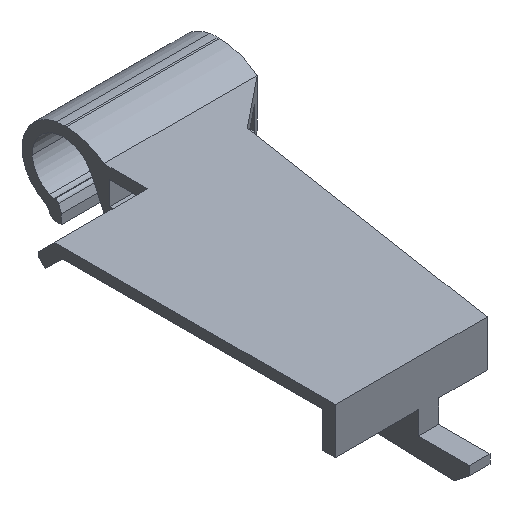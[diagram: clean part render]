
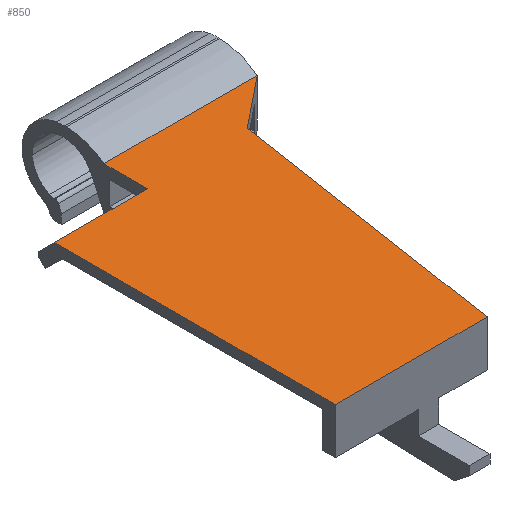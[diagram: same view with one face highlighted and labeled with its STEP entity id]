
A CAD part, isometric view. The second image highlights one B-rep face of the part: STEP entity #850.
In plain terms, the highlighted planar face has unit normal (0, 0, 1).
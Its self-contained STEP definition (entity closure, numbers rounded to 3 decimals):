
#54 = EDGE_LOOP ( 'NONE', ( #982, #920, #919, #1016, #948, #978, #974, #975 ) ) ;
#181 = CARTESIAN_POINT ( 'NONE',  ( -30., -7.997, 5.5 ) ) ;
#199 = VERTEX_POINT ( 'NONE', #208 ) ;
#208 = CARTESIAN_POINT ( 'NONE',  ( -48.2, -71.5, 5.5 ) ) ;
#229 = VERTEX_POINT ( 'NONE', #246 ) ;
#232 = VERTEX_POINT ( 'NONE', #241 ) ;
#241 = CARTESIAN_POINT ( 'NONE',  ( -48.2, -16.5, 5.5 ) ) ;
#246 = CARTESIAN_POINT ( 'NONE',  ( 0., -7.997, 5.5 ) ) ;
#270 = VERTEX_POINT ( 'NONE', #181 ) ;
#332 = LINE ( 'NONE', #718, #363 ) ;
#361 = FACE_OUTER_BOUND ( 'NONE', #54, .T. ) ;
#363 = VECTOR ( 'NONE', #721, 1000. ) ;
#517 = LINE ( 'NONE', #1363, #632 ) ;
#542 = PLANE ( 'NONE',  #1182 ) ;
#545 = CARTESIAN_POINT ( 'NONE',  ( -30., -7.997, 5.5 ) ) ;
#552 = DIRECTION ( 'NONE',  ( 0., 0., 1. ) ) ;
#553 = DIRECTION ( 'NONE',  ( 0., 1., 0. ) ) ;
#632 = VECTOR ( 'NONE', #1364, 1000. ) ;
#672 = CARTESIAN_POINT ( 'NONE',  ( -9.952, -16., 5.5 ) ) ;
#674 = CARTESIAN_POINT ( 'NONE',  ( 0., -8.038, 5.5 ) ) ;
#686 = CARTESIAN_POINT ( 'NONE',  ( -30., -16.5, 5.5 ) ) ;
#706 = CARTESIAN_POINT ( 'NONE',  ( -18.455, -71.5, 5.5 ) ) ;
#718 = CARTESIAN_POINT ( 'NONE',  ( 0., -7.997, 5.5 ) ) ;
#721 = DIRECTION ( 'NONE',  ( 0., 1., 0. ) ) ;
#770 = CARTESIAN_POINT ( 'NONE',  ( -30., -7.997, 5.5 ) ) ;
#771 = DIRECTION ( 'NONE',  ( 1., 0., 0. ) ) ;
#786 = CARTESIAN_POINT ( 'NONE',  ( -18.272, -22.656, 5.5 ) ) ;
#787 = DIRECTION ( 'NONE',  ( 0.781, 0.625, 0. ) ) ;
#788 = CARTESIAN_POINT ( 'NONE',  ( -48.2, -71.5, 5.5 ) ) ;
#789 = DIRECTION ( 'NONE',  ( 0., -1., 0. ) ) ;
#790 = CARTESIAN_POINT ( 'NONE',  ( -9.214, -11.181, 5.5 ) ) ;
#791 = DIRECTION ( 'NONE',  ( 0.151, 0.988, 0. ) ) ;
#811 = CARTESIAN_POINT ( 'NONE',  ( -48.2, -16.5, 5.5 ) ) ;
#817 = DIRECTION ( 'NONE',  ( 1., 0., 0. ) ) ;
#850 = ADVANCED_FACE ( 'NONE', ( #361 ), #542, .T. ) ;
#888 = VERTEX_POINT ( 'NONE', #672 ) ;
#889 = VERTEX_POINT ( 'NONE', #674 ) ;
#896 = VERTEX_POINT ( 'NONE', #686 ) ;
#912 = VERTEX_POINT ( 'NONE', #706 ) ;
#919 = ORIENTED_EDGE ( 'NONE', *, *, #1167, .T. ) ;
#920 = ORIENTED_EDGE ( 'NONE', *, *, #1061, .T. ) ;
#948 = ORIENTED_EDGE ( 'NONE', *, *, #1060, .T. ) ;
#974 = ORIENTED_EDGE ( 'NONE', *, *, #1053, .F. ) ;
#975 = ORIENTED_EDGE ( 'NONE', *, *, #1080, .F. ) ;
#978 = ORIENTED_EDGE ( 'NONE', *, *, #1028, .T. ) ;
#982 = ORIENTED_EDGE ( 'NONE', *, *, #1074, .F. ) ;
#1016 = ORIENTED_EDGE ( 'NONE', *, *, #1062, .T. ) ;
#1028 = EDGE_CURVE ( 'NONE', #889, #229, #332, .T. ) ;
#1053 = EDGE_CURVE ( 'NONE', #270, #229, #1580, .T. ) ;
#1060 = EDGE_CURVE ( 'NONE', #888, #889, #1592, .T. ) ;
#1061 = EDGE_CURVE ( 'NONE', #232, #199, #1611, .T. ) ;
#1062 = EDGE_CURVE ( 'NONE', #912, #888, #1561, .T. ) ;
#1074 = EDGE_CURVE ( 'NONE', #232, #896, #1553, .T. ) ;
#1080 = EDGE_CURVE ( 'NONE', #896, #270, #1516, .T. ) ;
#1167 = EDGE_CURVE ( 'NONE', #199, #912, #517, .T. ) ;
#1182 = AXIS2_PLACEMENT_3D ( 'NONE', #545, #552, #553 ) ;
#1244 = CARTESIAN_POINT ( 'NONE',  ( -30., -7.997, 5.5 ) ) ;
#1250 = DIRECTION ( 'NONE',  ( 0., 1., 0. ) ) ;
#1363 = CARTESIAN_POINT ( 'NONE',  ( -30., -71.5, 5.5 ) ) ;
#1364 = DIRECTION ( 'NONE',  ( 1., 0., 0. ) ) ;
#1516 = LINE ( 'NONE', #1244, #1571 ) ;
#1553 = LINE ( 'NONE', #811, #1579 ) ;
#1561 = LINE ( 'NONE', #790, #1563 ) ;
#1563 = VECTOR ( 'NONE', #791, 1000. ) ;
#1571 = VECTOR ( 'NONE', #1250, 1000. ) ;
#1575 = VECTOR ( 'NONE', #771, 1000. ) ;
#1576 = VECTOR ( 'NONE', #787, 1000. ) ;
#1579 = VECTOR ( 'NONE', #817, 1000. ) ;
#1580 = LINE ( 'NONE', #770, #1575 ) ;
#1592 = LINE ( 'NONE', #786, #1576 ) ;
#1611 = LINE ( 'NONE', #788, #1612 ) ;
#1612 = VECTOR ( 'NONE', #789, 1000. ) ;
